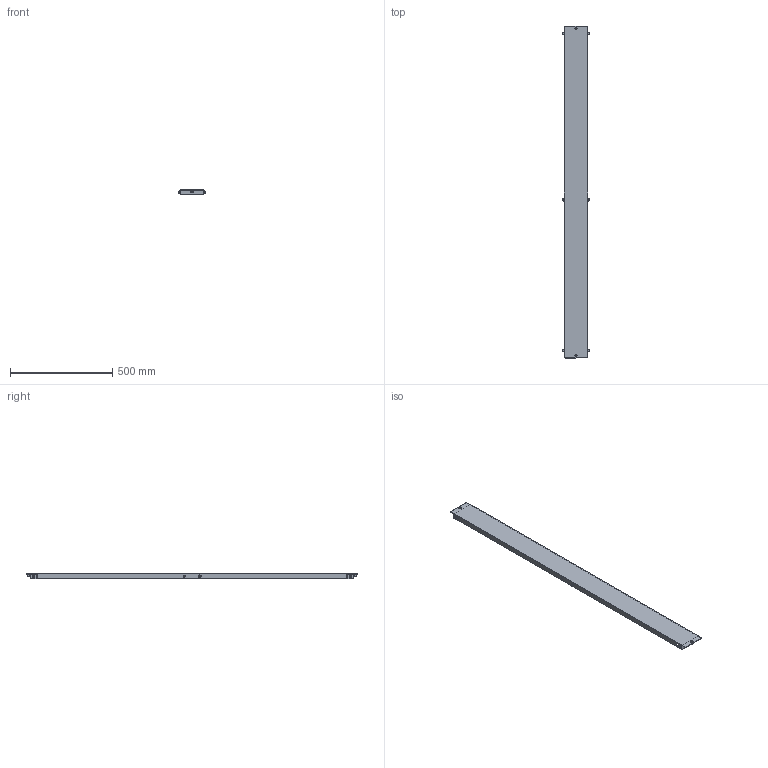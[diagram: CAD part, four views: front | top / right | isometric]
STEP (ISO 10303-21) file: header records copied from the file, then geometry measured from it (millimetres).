
FILE_DESCRIPTION(('Open CASCADE Model'),'2;1');
FILE_NAME('Open CASCADE Shape Model','2025-02-13T17:15:43',('Author'),( 'Open CASCADE'),'Open CASCADE STEP processor 7.8','Open CASCADE 7.8' ,'Unknown');
FILE_SCHEMA(('AUTOMOTIVE_DESIGN { 1 0 10303 214 1 1 1 1 }'));
Length unit declared in the file: millimetre
Products named in the file (7): Compound1; Solid1; Solid2; Solid3; Solid4; Solid5; Solid6
Assembly tree (19 placements, depth 2):
  Compound1
    Solid1
    Solid2  x2
    Solid3  x6
    Solid4  x2
    Solid5  x6
    Solid6  x2
Bounding box: 132 x 1625 x 28.9 mm (x, y, z)
Volume: 660230.2 mm3; surface area: 543036.4 mm2
Topology: 19 solids, 19 shells, 1008 faces, 2765 edges, 1793 vertices
Faces by surface type: plane 550, cylinder 312, cone 80, bspline 48, torus 16, sphere 2
Full cylindrical faces by diameter (mm): 4.917 x6, 5 x2, 6 x10, 6.6 x6, 7 x4, 8 x6, 11 x2
Entity records: 8694 total; most frequent: CARTESIAN_POINT 2254, ORIENTED_EDGE 1378, DIRECTION 1236, EDGE_CURVE 689, VERTEX_POINT 448, AXIS2_PLACEMENT_3D 424, LINE 388, VECTOR 388
